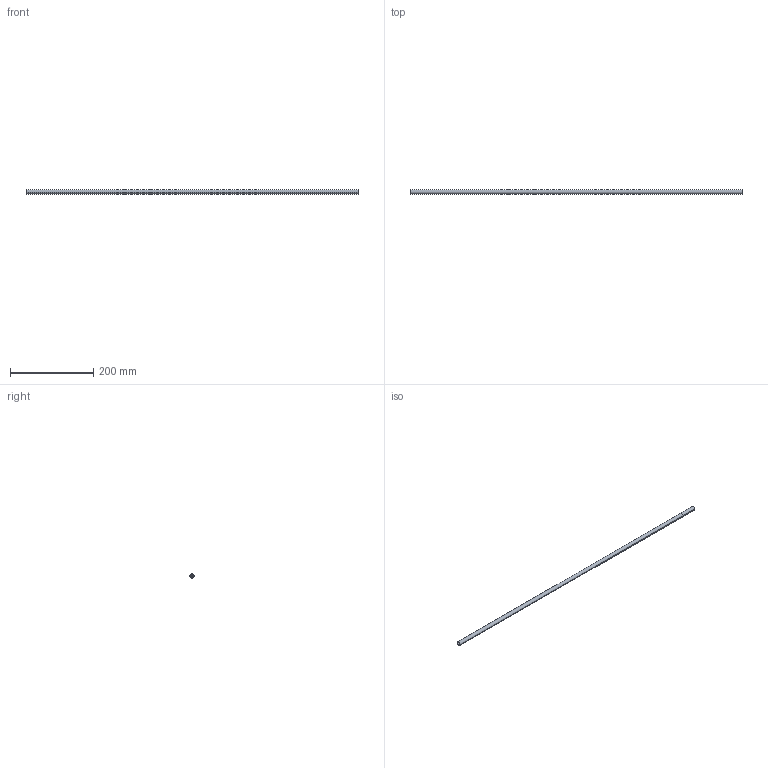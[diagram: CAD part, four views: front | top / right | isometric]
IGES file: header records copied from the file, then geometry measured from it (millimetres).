
Start section: START RECORD GO HERE.
Global section: file name: te106800.igs; native system: DASSAULT SYSTEMES CATIA V5 R20 - www.3ds.com; preprocessor: CATIA Version 5 Release 20 ; author: Utente; organization: NB04-ASUS; date: 20201107.142511; units: millimetre
Bounding box: 800 x 10 x 10 mm (x, y, z)
Surface area: 40790.4 mm2 (no closed solid volume)
Topology: 0 solids, 0 shells, 9 faces, 36 edges, 36 vertices
Faces by surface type: revolution 6, plane 3
